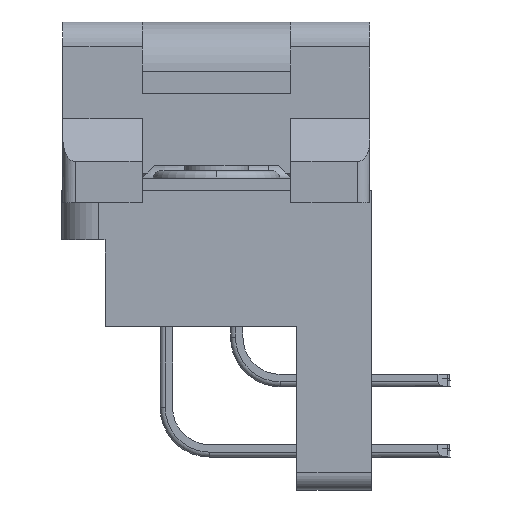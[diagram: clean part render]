
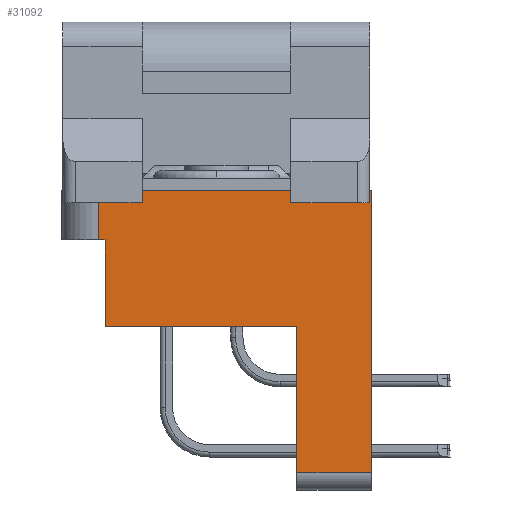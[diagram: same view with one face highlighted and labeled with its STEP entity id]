
A CAD part, left-side view. The second image highlights one B-rep face of the part: STEP entity #31092.
In plain terms, the highlighted planar face has unit normal (-1, 0, 0).
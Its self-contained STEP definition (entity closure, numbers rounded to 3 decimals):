
#711 = CARTESIAN_POINT ( 'NONE',  ( -19.55, 7.5, -2. ) ) ;
#781 = CARTESIAN_POINT ( 'NONE',  ( -19.55, 4.75, 0. ) ) ;
#1014 = VERTEX_POINT ( 'NONE', #26977 ) ;
#1583 = PLANE ( 'NONE',  #10768 ) ;
#1790 = DIRECTION ( 'NONE',  ( -1., 0., 0. ) ) ;
#1925 = EDGE_CURVE ( 'NONE', #26840, #1014, #30820, .T. ) ;
#1947 = CARTESIAN_POINT ( 'NONE',  ( -19.55, -6.25, 0. ) ) ;
#3191 = CARTESIAN_POINT ( 'NONE',  ( -19.55, 6.25, 0. ) ) ;
#3387 = LINE ( 'NONE', #3191, #10321 ) ;
#3708 = LINE ( 'NONE', #711, #26880 ) ;
#4880 = VECTOR ( 'NONE', #30971, 1000. ) ;
#5089 = CARTESIAN_POINT ( 'NONE',  ( -19.55, 4.5, -5.5 ) ) ;
#5292 = LINE ( 'NONE', #31322, #18329 ) ;
#5673 = DIRECTION ( 'NONE',  ( 0., -1., 0. ) ) ;
#5686 = CARTESIAN_POINT ( 'NONE',  ( -19.55, 4.5, -5.5 ) ) ;
#6023 = ORIENTED_EDGE ( 'NONE', *, *, #31571, .T. ) ;
#6590 = ORIENTED_EDGE ( 'NONE', *, *, #13326, .F. ) ;
#6773 = DIRECTION ( 'NONE',  ( 0., 0., 1. ) ) ;
#7741 = ORIENTED_EDGE ( 'NONE', *, *, #21023, .T. ) ;
#7905 = ORIENTED_EDGE ( 'NONE', *, *, #11527, .F. ) ;
#7931 = LINE ( 'NONE', #13138, #27843 ) ;
#8036 = VERTEX_POINT ( 'NONE', #32677 ) ;
#8833 = VERTEX_POINT ( 'NONE', #31934 ) ;
#9183 = CARTESIAN_POINT ( 'NONE',  ( -19.55, 6.25, -5.5 ) ) ;
#9253 = CARTESIAN_POINT ( 'NONE',  ( -19.55, -6.25, -5.5 ) ) ;
#9789 = LINE ( 'NONE', #28031, #4880 ) ;
#10193 = DIRECTION ( 'NONE',  ( 0., 0., -1. ) ) ;
#10321 = VECTOR ( 'NONE', #31677, 1000. ) ;
#10768 = AXIS2_PLACEMENT_3D ( 'NONE', #9183, #1790, #6773 ) ;
#11072 = VERTEX_POINT ( 'NONE', #5686 ) ;
#11138 = CARTESIAN_POINT ( 'NONE',  ( -19.55, 4.5, -2. ) ) ;
#11488 = LINE ( 'NONE', #5089, #17964 ) ;
#11527 = EDGE_CURVE ( 'NONE', #26840, #16897, #3387, .T. ) ;
#12533 = EDGE_CURVE ( 'NONE', #1014, #22482, #3708, .T. ) ;
#13138 = CARTESIAN_POINT ( 'NONE',  ( -19.55, -6.25, -11.4 ) ) ;
#13326 = EDGE_CURVE ( 'NONE', #30927, #8036, #9789, .T. ) ;
#15642 = ORIENTED_EDGE ( 'NONE', *, *, #24656, .T. ) ;
#16768 = DIRECTION ( 'NONE',  ( 0., -1., 0. ) ) ;
#16897 = VERTEX_POINT ( 'NONE', #1947 ) ;
#17819 = EDGE_CURVE ( 'NONE', #11072, #22482, #11488, .T. ) ;
#17943 = DIRECTION ( 'NONE',  ( 0., 0., 1. ) ) ;
#17964 = VECTOR ( 'NONE', #17943, 1000. ) ;
#18227 = LINE ( 'NONE', #9253, #29160 ) ;
#18329 = VECTOR ( 'NONE', #16768, 1000. ) ;
#20856 = ORIENTED_EDGE ( 'NONE', *, *, #17819, .F. ) ;
#21023 = EDGE_CURVE ( 'NONE', #11072, #8036, #5292, .T. ) ;
#21094 = FACE_OUTER_BOUND ( 'NONE', #31197, .T. ) ;
#21691 = ORIENTED_EDGE ( 'NONE', *, *, #12533, .T. ) ;
#22482 = VERTEX_POINT ( 'NONE', #11138 ) ;
#24588 = DIRECTION ( 'NONE',  ( 0., 0., 1. ) ) ;
#24632 = CARTESIAN_POINT ( 'NONE',  ( -19.55, -3.25, -11.4 ) ) ;
#24656 = EDGE_CURVE ( 'NONE', #30927, #8833, #7931, .T. ) ;
#26840 = VERTEX_POINT ( 'NONE', #781 ) ;
#26880 = VECTOR ( 'NONE', #5673, 1000. ) ;
#26977 = CARTESIAN_POINT ( 'NONE',  ( -19.55, 4.75, -2. ) ) ;
#27843 = VECTOR ( 'NONE', #30952, 1000. ) ;
#28031 = CARTESIAN_POINT ( 'NONE',  ( -19.55, -3.25, -5.5 ) ) ;
#29160 = VECTOR ( 'NONE', #24588, 1000. ) ;
#30184 = ORIENTED_EDGE ( 'NONE', *, *, #1925, .T. ) ;
#30820 = LINE ( 'NONE', #32896, #33286 ) ;
#30927 = VERTEX_POINT ( 'NONE', #24632 ) ;
#30952 = DIRECTION ( 'NONE',  ( 0., -1., 0. ) ) ;
#30971 = DIRECTION ( 'NONE',  ( 0., 0., 1. ) ) ;
#31092 = ADVANCED_FACE ( 'NONE', ( #21094 ), #1583, .T. ) ;
#31197 = EDGE_LOOP ( 'NONE', ( #7741, #6590, #15642, #6023, #7905, #30184, #21691, #20856 ) ) ;
#31322 = CARTESIAN_POINT ( 'NONE',  ( -19.55, 6.25, -5.5 ) ) ;
#31571 = EDGE_CURVE ( 'NONE', #8833, #16897, #18227, .T. ) ;
#31677 = DIRECTION ( 'NONE',  ( 0., -1., 0. ) ) ;
#31934 = CARTESIAN_POINT ( 'NONE',  ( -19.55, -6.25, -11.4 ) ) ;
#32677 = CARTESIAN_POINT ( 'NONE',  ( -19.55, -3.25, -5.5 ) ) ;
#32896 = CARTESIAN_POINT ( 'NONE',  ( -19.55, 4.75, -5.5 ) ) ;
#33286 = VECTOR ( 'NONE', #10193, 1000. ) ;
